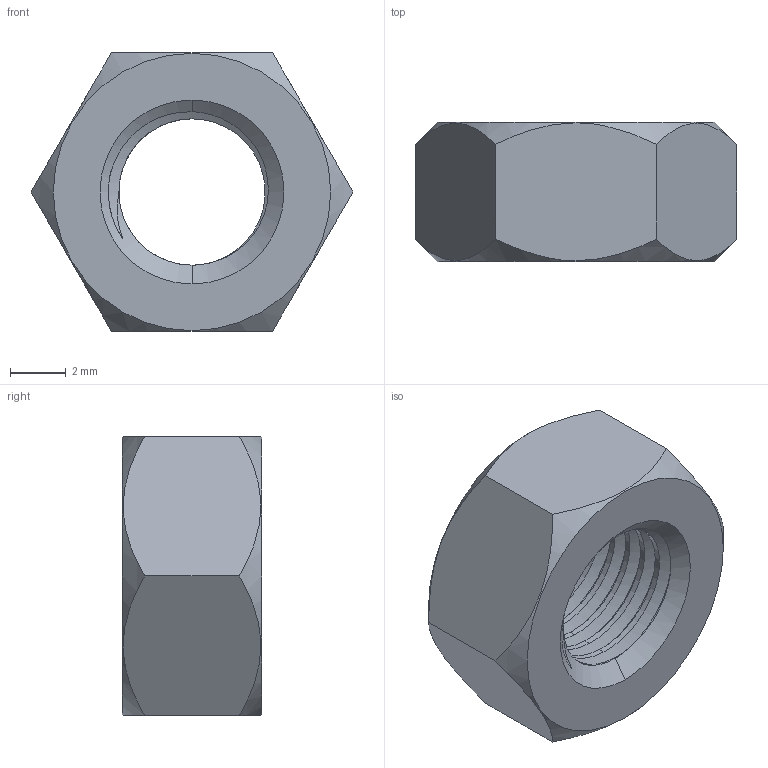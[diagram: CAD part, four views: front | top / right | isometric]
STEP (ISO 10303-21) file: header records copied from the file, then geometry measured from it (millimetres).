
FILE_DESCRIPTION (( 'STEP AP203' ), '1' );
FILE_NAME ('TANRM-304-M6x0.75.STEP', '2026-08-21T14:33:47', ( '' ), ( '' ), 'SwSTEP 2.0', 'SolidWorks 2020', '' );
FILE_SCHEMA (( 'CONFIG_CONTROL_DESIGN' ));
Length unit declared in the file: millimetre
Products named in the file (1): TANRM-304-M6x0.75
Bounding box: 11.55 x 5 x 10 mm (x, y, z)
Volume: 302.9 mm3; surface area: 408 mm2
Topology: 1 solids, 1 shells, 32 faces, 88 edges, 58 vertices
Faces by surface type: cylinder 13, cone 8, plane 8, bspline 3
Entity records: 3014 total; most frequent: CARTESIAN_POINT 2242, ORIENTED_EDGE 176, DIRECTION 110, EDGE_CURVE 88, VERTEX_POINT 58, AXIS2_PLACEMENT_3D 42, EDGE_LOOP 34, FACE_OUTER_BOUND 32
